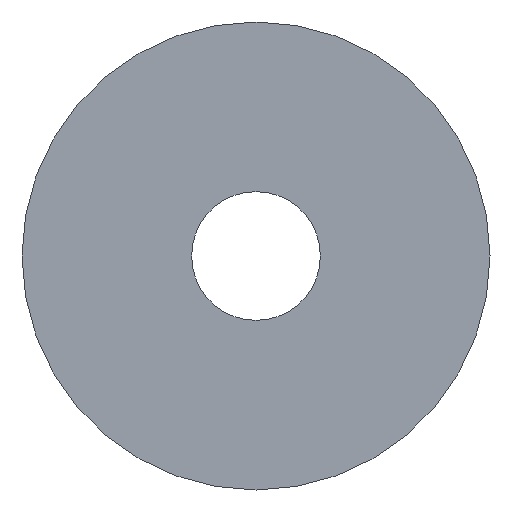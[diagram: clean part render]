
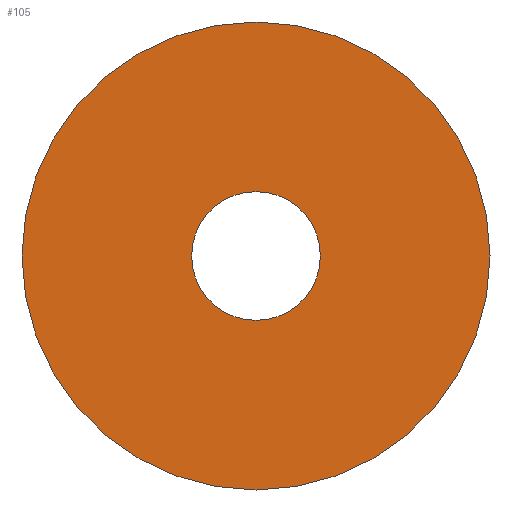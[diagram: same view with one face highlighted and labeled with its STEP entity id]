
A CAD part, left-side view. The second image highlights one B-rep face of the part: STEP entity #105.
In plain terms, the highlighted planar face has unit normal (-1, 0, 0).
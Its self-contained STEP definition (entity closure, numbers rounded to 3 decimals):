
#22 = VERTEX_POINT('',#23);
#23 = CARTESIAN_POINT('',(28.,40.,0.));
#32 = CYLINDRICAL_SURFACE('',#33,40.);
#33 = AXIS2_PLACEMENT_3D('',#34,#35,#36);
#34 = CARTESIAN_POINT('',(28.,0.,0.));
#35 = DIRECTION('',(-1.,-0.,-0.));
#36 = DIRECTION('',(0.,1.,0.));
#79 = EDGE_CURVE('',#22,#22,#80,.T.);
#80 = SURFACE_CURVE('',#81,(#86,#93),.PCURVE_S1.);
#81 = CIRCLE('',#82,40.);
#82 = AXIS2_PLACEMENT_3D('',#83,#84,#85);
#83 = CARTESIAN_POINT('',(28.,0.,0.));
#84 = DIRECTION('',(1.,0.,0.));
#85 = DIRECTION('',(0.,1.,0.));
#86 = PCURVE('',#32,#87);
#87 = DEFINITIONAL_REPRESENTATION('',(#88),#92);
#88 = LINE('',#89,#90);
#89 = CARTESIAN_POINT('',(-0.,0.));
#90 = VECTOR('',#91,1.);
#91 = DIRECTION('',(-1.,0.));
#92 = ( GEOMETRIC_REPRESENTATION_CONTEXT(2) 
PARAMETRIC_REPRESENTATION_CONTEXT() REPRESENTATION_CONTEXT('2D SPACE',''
  ) );
#93 = PCURVE('',#94,#99);
#94 = PLANE('',#95);
#95 = AXIS2_PLACEMENT_3D('',#96,#97,#98);
#96 = CARTESIAN_POINT('',(28.,0.,0.));
#97 = DIRECTION('',(1.,0.,0.));
#98 = DIRECTION('',(-0.,0.,1.));
#99 = DEFINITIONAL_REPRESENTATION('',(#100),#104);
#100 = CIRCLE('',#101,40.);
#101 = AXIS2_PLACEMENT_2D('',#102,#103);
#102 = CARTESIAN_POINT('',(0.,0.));
#103 = DIRECTION('',(0.,-1.));
#104 = ( GEOMETRIC_REPRESENTATION_CONTEXT(2) 
PARAMETRIC_REPRESENTATION_CONTEXT() REPRESENTATION_CONTEXT('2D SPACE',''
  ) );
#105 = ADVANCED_FACE('',(#106,#109),#94,.F.);
#106 = FACE_BOUND('',#107,.F.);
#107 = EDGE_LOOP('',(#108));
#108 = ORIENTED_EDGE('',*,*,#79,.T.);
#109 = FACE_BOUND('',#110,.F.);
#110 = EDGE_LOOP('',(#111));
#111 = ORIENTED_EDGE('',*,*,#112,.T.);
#112 = EDGE_CURVE('',#113,#113,#115,.T.);
#113 = VERTEX_POINT('',#114);
#114 = CARTESIAN_POINT('',(28.,11.,0.));
#115 = SURFACE_CURVE('',#116,(#121,#132),.PCURVE_S1.);
#116 = CIRCLE('',#117,11.);
#117 = AXIS2_PLACEMENT_3D('',#118,#119,#120);
#118 = CARTESIAN_POINT('',(28.,0.,0.));
#119 = DIRECTION('',(-1.,0.,0.));
#120 = DIRECTION('',(0.,1.,0.));
#121 = PCURVE('',#94,#122);
#122 = DEFINITIONAL_REPRESENTATION('',(#123),#131);
#123 = ( BOUNDED_CURVE() B_SPLINE_CURVE(2,(#124,#125,#126,#127,#128,#129
,#130),.UNSPECIFIED.,.T.,.F.) B_SPLINE_CURVE_WITH_KNOTS((1,2,2,2,2,1),(
    -2.094,0.,2.094,4.189,6.283,
8.378),.UNSPECIFIED.) CURVE() GEOMETRIC_REPRESENTATION_ITEM() 
RATIONAL_B_SPLINE_CURVE((1.,0.5,1.,0.5,1.,0.5,1.)) REPRESENTATION_ITEM(
  '') );
#124 = CARTESIAN_POINT('',(0.,-11.));
#125 = CARTESIAN_POINT('',(-19.053,-11.));
#126 = CARTESIAN_POINT('',(-9.526,5.5));
#127 = CARTESIAN_POINT('',(0.,22.));
#128 = CARTESIAN_POINT('',(9.526,5.5));
#129 = CARTESIAN_POINT('',(19.053,-11.));
#130 = CARTESIAN_POINT('',(0.,-11.));
#131 = ( GEOMETRIC_REPRESENTATION_CONTEXT(2) 
PARAMETRIC_REPRESENTATION_CONTEXT() REPRESENTATION_CONTEXT('2D SPACE',''
  ) );
#132 = PCURVE('',#133,#138);
#133 = CYLINDRICAL_SURFACE('',#134,11.);
#134 = AXIS2_PLACEMENT_3D('',#135,#136,#137);
#135 = CARTESIAN_POINT('',(27.,0.,0.));
#136 = DIRECTION('',(-1.,-0.,-0.));
#137 = DIRECTION('',(0.,1.,0.));
#138 = DEFINITIONAL_REPRESENTATION('',(#139),#143);
#139 = LINE('',#140,#141);
#140 = CARTESIAN_POINT('',(-6.283,-1.));
#141 = VECTOR('',#142,1.);
#142 = DIRECTION('',(1.,-0.));
#143 = ( GEOMETRIC_REPRESENTATION_CONTEXT(2) 
PARAMETRIC_REPRESENTATION_CONTEXT() REPRESENTATION_CONTEXT('2D SPACE',''
  ) );
